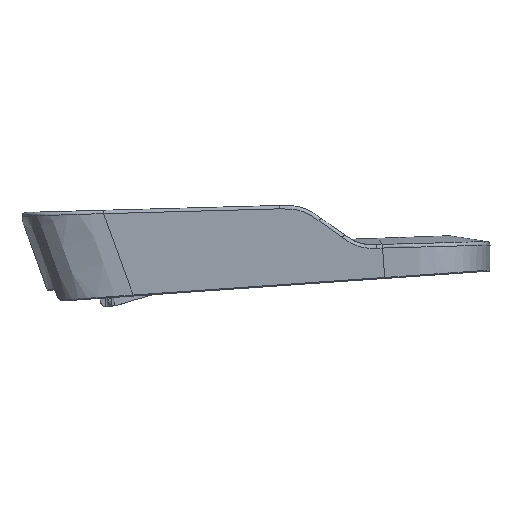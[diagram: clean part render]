
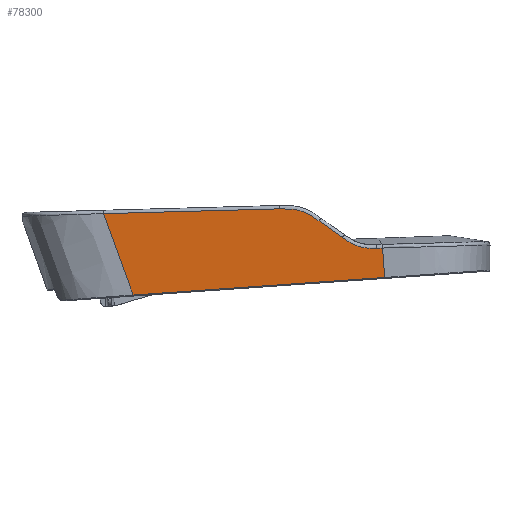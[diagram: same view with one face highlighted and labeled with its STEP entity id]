
A CAD part, left-side view. The second image highlights one B-rep face of the part: STEP entity #78300.
In plain terms, the highlighted planar face has unit normal (-0.998, -0.005, -0.07).
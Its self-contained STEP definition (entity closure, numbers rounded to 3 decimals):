
#20132=DIRECTION('',(0.,-0.998,0.07));
#20133=VECTOR('',#20132,184.869);
#20134=CARTESIAN_POINT('',(-120.552,-158.853,
92.596));
#20135=LINE('',#20134,#20133);
#20136=DIRECTION('',(-0.067,0.341,0.938));
#20137=VECTOR('',#20136,63.624);
#20138=CARTESIAN_POINT('',(-120.552,-158.853,
92.596));
#20139=LINE('',#20138,#20137);
#20140=DIRECTION('',(0.003,-1.,0.027));
#20141=VECTOR('',#20140,129.109);
#20142=CARTESIAN_POINT('',(-124.819,-137.143,
152.249));
#20143=LINE('',#20142,#20141);
#20144=CARTESIAN_POINT('',(-124.435,-266.203,
155.767));
#20145=CARTESIAN_POINT('',(-124.432,-268.593,
155.892));
#20146=CARTESIAN_POINT('',(-124.41,-273.095,
155.893));
#20147=CARTESIAN_POINT('',(-124.33,-279.146,
155.166));
#20148=CARTESIAN_POINT('',(-124.2,-284.105,
153.646));
#20149=CARTESIAN_POINT('',(-123.98,-289.516,
150.868));
#20150=CARTESIAN_POINT('',(-123.787,-293.241,
148.361));
#20151=CARTESIAN_POINT('',(-123.678,-295.149,
146.928));
#20153=DIRECTION('',(0.044,-0.814,-0.58));
#20154=VECTOR('',#20153,21.029);
#20155=CARTESIAN_POINT('',(-123.678,-295.149,
146.928));
#20156=LINE('',#20155,#20154);
#20157=CARTESIAN_POINT('',(-122.744,-312.261,
134.741));
#20158=CARTESIAN_POINT('',(-122.649,-313.917,
133.495));
#20159=CARTESIAN_POINT('',(-122.481,-317.162,
131.31));
#20160=CARTESIAN_POINT('',(-122.289,-321.909,
128.886));
#20161=CARTESIAN_POINT('',(-122.172,-326.292,
127.521));
#20162=CARTESIAN_POINT('',(-122.098,-331.469,
126.829));
#20163=CARTESIAN_POINT('',(-122.078,-335.334,
126.809));
#20164=CARTESIAN_POINT('',(-122.075,-337.379,
126.91));
#20166=CARTESIAN_POINT('',(-122.075,-337.379,
126.91));
#20167=CARTESIAN_POINT('',(-122.071,-338.744,
126.948));
#20168=CARTESIAN_POINT('',(-122.067,-340.11,
126.985));
#20169=CARTESIAN_POINT('',(-122.063,-341.475,
127.023));
#20171=CARTESIAN_POINT('',(-122.063,-341.475,
127.023));
#20172=CARTESIAN_POINT('',(-122.063,-341.572,
127.026));
#20173=CARTESIAN_POINT('',(-122.063,-341.669,
127.028));
#20174=CARTESIAN_POINT('',(-122.062,-341.766,
127.031));
#20176=DIRECTION('',(0.07,-0.07,-0.995));
#20177=VECTOR('',#20176,21.651);
#20178=CARTESIAN_POINT('',(-122.062,-341.766,
127.031));
#20179=LINE('',#20178,#20177);
#25139=VERTEX_POINT('',#20171);
#25140=VERTEX_POINT('',#20174);
#25143=VERTEX_POINT('',#20166);
#25146=VERTEX_POINT('',#20157);
#25148=CARTESIAN_POINT('',(-123.678,-295.149,
146.928));
#25149=VERTEX_POINT('',#25148);
#25152=VERTEX_POINT('',#20144);
#25154=CARTESIAN_POINT('',(-124.819,-137.143,
152.249));
#25155=VERTEX_POINT('',#25154);
#25168=CARTESIAN_POINT('',(-120.552,-158.853,
92.596));
#25169=CARTESIAN_POINT('',(-120.552,-343.272,
105.485));
#25170=VERTEX_POINT('',#25168);
#25171=VERTEX_POINT('',#25169);
#78276=CARTESIAN_POINT('',(-120.5,-420.491,110.137));
#78277=DIRECTION('',(0.998,0.005,0.07));
#78278=DIRECTION('',(0.07,0.,-0.998));
#78279=AXIS2_PLACEMENT_3D('',#78276,#78277,#78278);
#78280=PLANE('',#78279);
#78282=ORIENTED_EDGE('',*,*,#78281,.F.);
#78284=ORIENTED_EDGE('',*,*,#78283,.T.);
#78286=ORIENTED_EDGE('',*,*,#78285,.T.);
#78288=ORIENTED_EDGE('',*,*,#78287,.T.);
#78290=ORIENTED_EDGE('',*,*,#78289,.T.);
#78292=ORIENTED_EDGE('',*,*,#78291,.T.);
#78293=ORIENTED_EDGE('',*,*,#78266,.T.);
#78295=ORIENTED_EDGE('',*,*,#78294,.T.);
#78297=ORIENTED_EDGE('',*,*,#78296,.T.);
#78298=EDGE_LOOP('',(#78282,#78284,#78286,#78288,#78290,#78292,#78293,#78295,
#78297));
#78299=FACE_OUTER_BOUND('',#78298,.F.);
#20152=B_SPLINE_CURVE_WITH_KNOTS('',3,(#20144,#20145,#20146,#20147,#20148,
#20149,#20150,#20151),.UNSPECIFIED.,.F.,.F.,(4,1,1,1,1,4),(0.,0.2,0.4,
0.6,0.8,1.),.UNSPECIFIED.);
#20165=B_SPLINE_CURVE_WITH_KNOTS('',3,(#20157,#20158,#20159,#20160,#20161,
#20162,#20163,#20164),.UNSPECIFIED.,.F.,.F.,(4,1,1,1,1,4),(0.,0.2,0.4,
0.6,0.8,1.),.UNSPECIFIED.);
#20170=B_SPLINE_CURVE_WITH_KNOTS('',3,(#20166,#20167,#20168,#20169),
.UNSPECIFIED.,.F.,.F.,(4,4),(0.,1.),.UNSPECIFIED.);
#20175=B_SPLINE_CURVE_WITH_KNOTS('',3,(#20171,#20172,#20173,#20174),
.UNSPECIFIED.,.F.,.F.,(4,4),(0.,1.),.UNSPECIFIED.);
#78266=EDGE_CURVE('',#25143,#25139,#20170,.T.);
#78281=EDGE_CURVE('',#25170,#25171,#20135,.T.);
#78283=EDGE_CURVE('',#25170,#25155,#20139,.T.);
#78285=EDGE_CURVE('',#25155,#25152,#20143,.T.);
#78287=EDGE_CURVE('',#25152,#25149,#20152,.T.);
#78289=EDGE_CURVE('',#25149,#25146,#20156,.T.);
#78291=EDGE_CURVE('',#25146,#25143,#20165,.T.);
#78294=EDGE_CURVE('',#25139,#25140,#20175,.T.);
#78296=EDGE_CURVE('',#25140,#25171,#20179,.T.);
#78300=ADVANCED_FACE('',(#78299),#78280,.F.);
